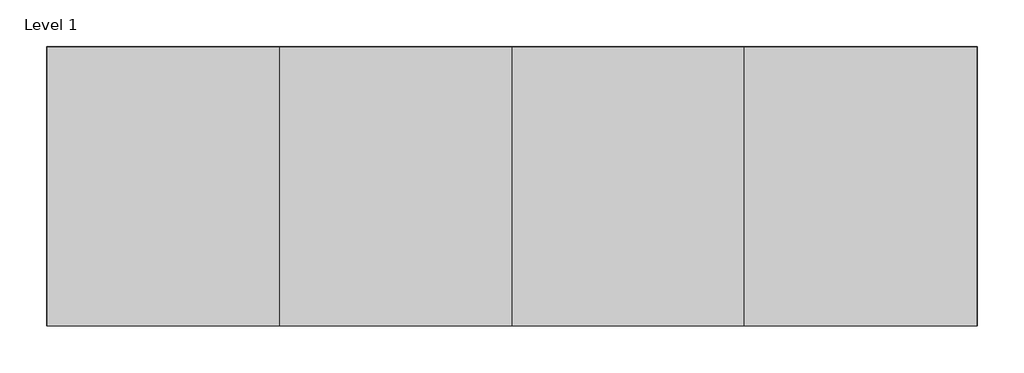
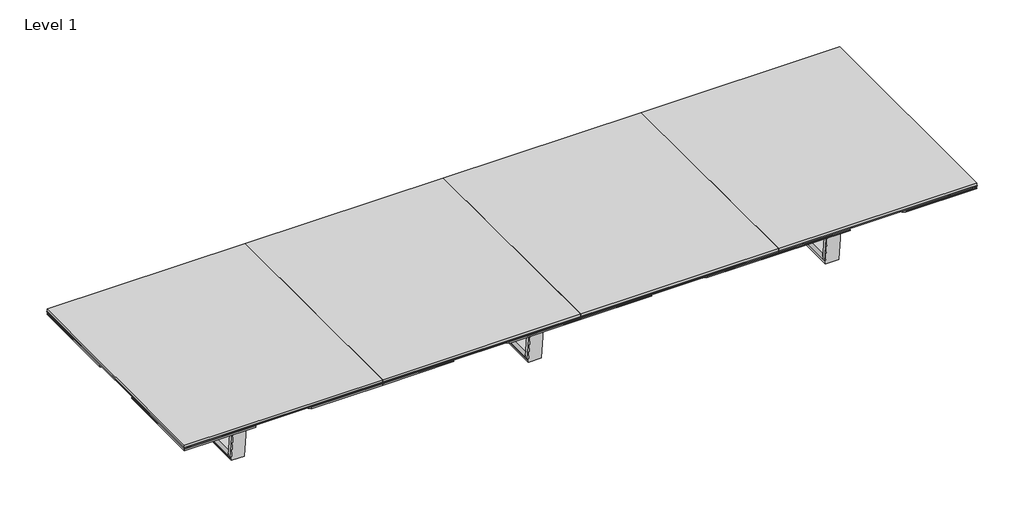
# One storey, incomplete: 12 proxies.
"""IFC4 building model written with IfcOpenShell, lengths in millimetres."""

from ifc_helpers import new_model, si_unit, origin, place, context, project, spatial, transform, mapped, element, save
from components import generic_models_ee63442a, generic_models_6ec2ff92, generic_models_12575e35, generic_models_32476a3b, generic_models_c5cf19e4, generic_models_7e3621ef

model = new_model("IFC4")

# Units and contexts
model_context = context("Model", 3, world=origin())
ifc_project = project(units=[si_unit("LENGTHUNIT", "METRE", prefix="MILLI")], contexts=[model_context])

# Site, building, storey
site = spatial("IfcSite", under=ifc_project)
building = spatial("IfcBuilding", under=site)
storey = spatial("IfcBuildingStorey", under=building, Name="Level 1", Elevation=0.0)

# Proxies
placement = place(None, origin())
generic_models_shape = generic_models_ee63442a(model_context)
element("IfcBuildingElementProxy", 1, Name="IMPRESS^TABLE 6_24in END BASE-PARTS SOLID", ObjectType="IMPRESS^TABLE 6_24in END BASE-PARTS SOLID", at=placement, inside=storey, context=model_context, shape_type="MappedRepresentation", body=[
    mapped(generic_models_shape, transform((711.2, -1219.2, -685.8), x_axis=(0.0, 1.0, 0.0), y_axis=(0.0, 0.0, 1.0), z_axis=(1.0, 0.0, 0.0))),
])
element("IfcBuildingElementProxy", 2, Name="IMPRESS^TABLE 6_24in END BASE-PARTS SOLID", ObjectType="IMPRESS^TABLE 6_24in END BASE-PARTS SOLID", at=placement, inside=storey, context=model_context, shape_type="MappedRepresentation", body=[
    mapped(generic_models_shape, transform((5384.8, -609.6, -685.8), x_axis=(0.0, -1.0, 0.0), y_axis=(0.0, 0.0, 1.0), z_axis=(-1.0, 0.0, 0.0))),
])
generic_models_2_shape = generic_models_6ec2ff92(model_context)
element("IfcBuildingElementProxy", 3, Name="IMPRESS^TABLE 6_4 PC TOP PWR DRAWERS-RT SIDE KEEL", ObjectType="IMPRESS^TABLE 6_4 PC TOP PWR DRAWERS-RT SIDE KEEL", at=placement, inside=storey, context=model_context, shape_type="MappedRepresentation", body=[
    mapped(generic_models_2_shape, transform((5302.25, -1221.3605294, -101.6), x_axis=(-1.0, 0.0, 0.0), y_axis=(0.0, 0.0, 1.0), z_axis=(0.0, 1.0, 0.0))),
])
element("IfcBuildingElementProxy", 4, Name="IMPRESS^TABLE 6_4 PC TOP PWR DRAWERS-RT SIDE KEEL", ObjectType="IMPRESS^TABLE 6_4 PC TOP PWR DRAWERS-RT SIDE KEEL", at=placement, inside=storey, context=model_context, shape_type="MappedRepresentation", body=[
    mapped(generic_models_2_shape, transform((793.75, -607.4394706, -101.6), x_axis=(1.0, 0.0, 0.0), y_axis=(0.0, 0.0, 1.0), z_axis=(0.0, -1.0, 0.0))),
])
element("IfcBuildingElementProxy", 5, Name="IMPRESS^TABLE 6_4 PC TOP PWR DRAWERS-LT SIDE KEEL", ObjectType="IMPRESS^TABLE 6_4 PC TOP PWR DRAWERS-LT SIDE KEEL", at=placement, inside=storey, context=model_context, shape_type="MappedRepresentation", body=[
    mapped(generic_models_2_shape, transform((3016.25, -1221.3605294, -101.6), x_axis=(-1.0, 0.0, 0.0), y_axis=(0.0, 0.0, 1.0), z_axis=(0.0, 1.0, 0.0))),
])
element("IfcBuildingElementProxy", 6, Name="IMPRESS^TABLE 6_4 PC TOP PWR DRAWERS-LT SIDE KEEL", ObjectType="IMPRESS^TABLE 6_4 PC TOP PWR DRAWERS-LT SIDE KEEL", at=placement, inside=storey, context=model_context, shape_type="MappedRepresentation", body=[
    mapped(generic_models_2_shape, transform((3079.75, -607.4394706, -101.6), x_axis=(1.0, 0.0, 0.0), y_axis=(0.0, 0.0, 1.0), z_axis=(0.0, -1.0, 0.0))),
])
generic_models_3_shape = generic_models_12575e35(model_context)
element("IfcBuildingElementProxy", 7, Name="IMPRESS^TABLE 6_4 PC TOP PWR DRAWERS-END KEEL", ObjectType="IMPRESS^TABLE 6_4 PC TOP PWR DRAWERS-END KEEL", at=placement, inside=storey, context=model_context, shape_type="MappedRepresentation", body=[
    mapped(generic_models_3_shape, transform((5365.75, -1278.5105294, 0.0), x_axis=(0.0, 1.0, 0.0), y_axis=(0.0, 0.0, 1.0), z_axis=(1.0, 0.0, 0.0))),
])
element("IfcBuildingElementProxy", 8, Name="IMPRESS^TABLE 6_4 PC TOP PWR DRAWERS-END KEEL", ObjectType="IMPRESS^TABLE 6_4 PC TOP PWR DRAWERS-END KEEL", at=placement, inside=storey, context=model_context, shape_type="MappedRepresentation", body=[
    mapped(generic_models_3_shape, transform((711.2, -1278.5105294, 0.0), x_axis=(0.0, 1.0, 0.0), y_axis=(0.0, 0.0, 1.0), z_axis=(1.0, 0.0, 0.0))),
])
generic_models_4_shape = generic_models_32476a3b(model_context)
element("IfcBuildingElementProxy", 9, Name="IMPRESS^TABLE 6_24in CTR BASE-PARTS SOLID", ObjectType="IMPRESS^TABLE 6_24in CTR BASE-PARTS SOLID", at=placement, inside=storey, context=model_context, shape_type="MappedRepresentation", body=[
    mapped(generic_models_4_shape, transform((2997.2, -1219.2, -685.8), x_axis=(0.0, 1.0, 0.0), y_axis=(0.0, 0.0, 1.0), z_axis=(1.0, 0.0, 0.0))),
])
generic_models_5_shape = generic_models_c5cf19e4(model_context)
element("IfcBuildingElementProxy", 10, Name="IMPRESS^TABLE 6_4 PC TOP PWR DRAWERS-CORNER SUPPORT BRACKET", ObjectType="IMPRESS^TABLE 6_4 PC TOP PWR DRAWERS-CORNER SUPPORT BRACKET", at=placement, inside=storey, context=model_context, shape_type="MappedRepresentation", body=[
    mapped(generic_models_5_shape, transform((711.2, -1092.2, -101.6), x_axis=(0.0, 1.0, 0.0), y_axis=(0.0, 0.0, 1.0), z_axis=(1.0, 0.0, 0.0))),
])
element("IfcBuildingElementProxy", 11, Name="IMPRESS^TABLE 6_4 PC TOP PWR DRAWERS-CORNER SUPPORT BRACKET", ObjectType="IMPRESS^TABLE 6_4 PC TOP PWR DRAWERS-CORNER SUPPORT BRACKET", at=placement, inside=storey, context=model_context, shape_type="MappedRepresentation", body=[
    mapped(generic_models_5_shape, transform((5384.8, -736.6, -101.6), x_axis=(0.0, -1.0, 0.0), y_axis=(0.0, 0.0, 1.0), z_axis=(-1.0, 0.0, 0.0))),
])
generic_models_6_shape = generic_models_7e3621ef(model_context)
element("IfcBuildingElementProxy", 12, Name="IMPRESS^TABLE 6_4 PC TOP PWR DRAWERS-TOP PARTS SOLID", ObjectType="IMPRESS^TABLE 6_4 PC TOP PWR DRAWERS-TOP PARTS SOLID", at=placement, inside=storey, context=model_context, shape_type="MappedRepresentation", body=[
    mapped(generic_models_6_shape, transform((0.0, -1828.8, 38.1), x_axis=(1.0, 0.0, 0.0), y_axis=(0.0, 0.0, 1.0), z_axis=(0.0, -1.0, 0.0))),
])

save(model, "model.ifc")
